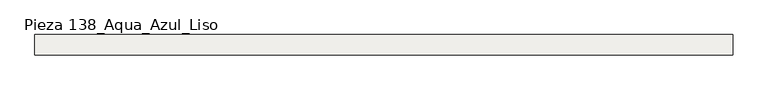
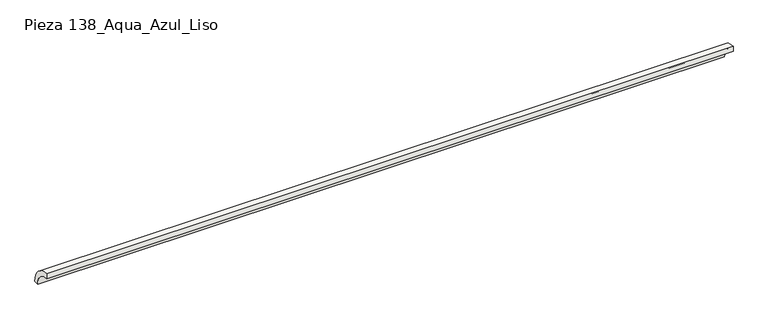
"""IFC4 building model written with IfcOpenShell, lengths in millimetres: slab geometry, ROSA GRES_138 : Pieza 138_Aqua_Azul_Liso."""

from ifc_helpers import new_model, si_unit, point, frame, frame_2d, origin, origin_2d, place, context, project, spatial, polyline, circle_curve, trimmed, segment, composite_curve, outline, extrude, source, transform, mapped, element, save


def pieza_138_aqua_azul_liso_2b254a65(model_context):
    return source(origin(), model_context, "Body", "SweptSolid", [
        extrude(outline(composite_curve([segment(trimmed(circle_curve(origin_2d(), 40.0), [point((0.0, 40.0))], [point((40.0, 0.0))], False, "CARTESIAN"), True, "CONTINUOUS"), segment(polyline([(40.0, 0.0), (30.0265886, 0.0)]), True, "CONTINUOUS"), segment(trimmed(circle_curve(frame_2d((0.0044453, 0.0044453)), 30.0221435), [point((30.0265886, 0.0))], [point((0.0, 30.0265886))], True, "CARTESIAN"), True, "CONTINUOUS"), segment(polyline([(0.0, 30.0265886), (0.0, 40.0)]), True, "CONTINUOUS")], self_intersect=False)), frame((0.0, 0.0, 0.0), z_axis=(1.0, 0.0, 0.0), x_axis=(0.0, 1.0, 0.0)), (0.0, 0.0, 1.0), 1362.1491423),
    ])


if __name__ == "__main__":
    model = new_model("IFC4")
    model_context = context("Model", 3, world=origin())
    ifc_project = project(units=[si_unit("LENGTHUNIT", "METRE", prefix="MILLI")], contexts=[model_context])
    site = spatial("IfcSite", under=ifc_project)
    building = spatial("IfcBuilding", under=site)
    placement = place(None, origin())
    pieza_138_aqua_azul_liso_shape = pieza_138_aqua_azul_liso_2b254a65(model_context)
    element("IfcSlab", 1, ObjectType="ROSA GRES_138 : Pieza 138_Aqua_Azul_Liso", at=placement, inside=building, context=model_context, shape_type="MappedRepresentation", body=[
        mapped(pieza_138_aqua_azul_liso_shape, transform((0.0, 0.0, 0.0), x_axis=(1.0, 0.0, 0.0), y_axis=(0.0, 1.0, 0.0), z_axis=(0.0, 0.0, 1.0))),
    ])
    save(model, "model.ifc")
